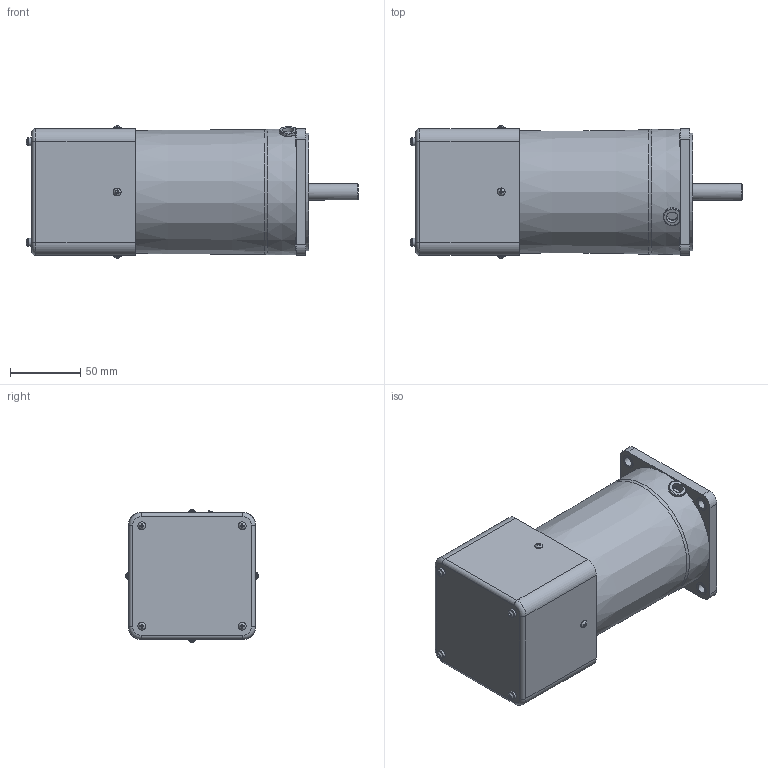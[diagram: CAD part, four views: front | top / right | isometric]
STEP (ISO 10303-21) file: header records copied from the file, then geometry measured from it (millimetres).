
FILE_DESCRIPTION((''),'2;1');
FILE_NAME('D:\yang\Yang cw\SPG 업무\2. DC MOTOR\7. DC MOTOR 브로슈어\AC MOTOR\90각 180W\STEP\S9I(R)180K-V.stp','2015-03-31T08:33:54',('ycw1227'),(''),'Autodesk Inventor 2013','Autodesk Inventor 2013','');
FILE_SCHEMA(('AUTOMOTIVE_DESIGN { 1 0 10303 214 1 1 1 1 }'));
Length unit declared in the file: millimetre
Products named in the file (1): 부품10
Bounding box: 235.75 x 93.89 x 93.89 mm (x, y, z)
Volume: 1086241.9 mm3; surface area: 111014.1 mm2
Topology: 1 solids, 7 shells, 287 faces, 691 edges, 446 vertices
Faces by surface type: plane 176, cylinder 70, torus 26, bspline 8, cone 7
Full cylindrical faces by diameter (mm): 3 x8, 4.5 x4, 5.6 x12, 6.5 x4, 8 x1, 9.5 x4, 10 x1, 12 x1, 40 x1, 83.5 x1
Entity records: 8780 total; most frequent: CARTESIAN_POINT 2196, DIRECTION 1239, ORIENTED_EDGE 1216, EDGE_CURVE 608, AXIS2_PLACEMENT_3D 456, VERTEX_POINT 432, EDGE_LOOP 402, VECTOR 327
